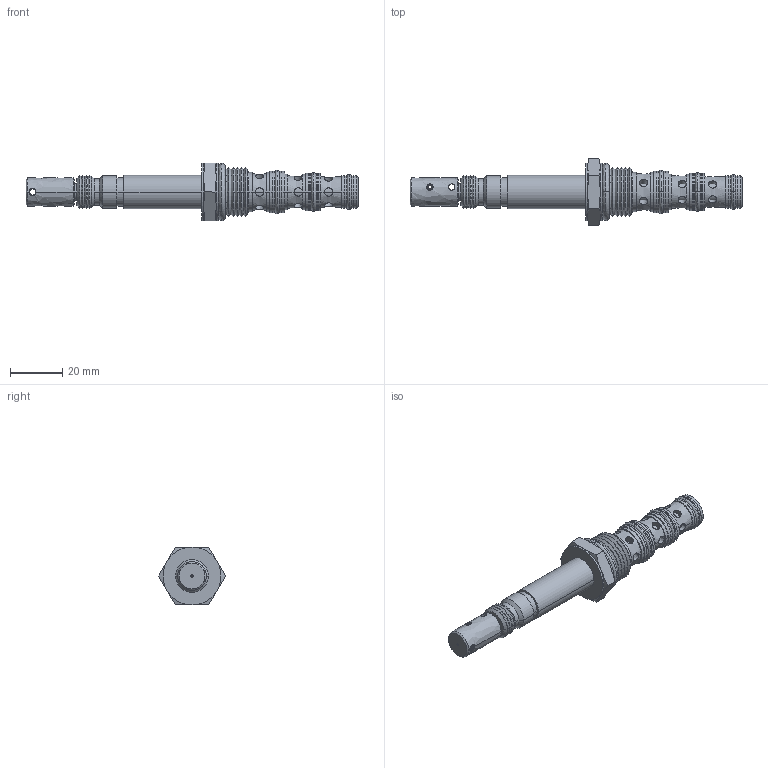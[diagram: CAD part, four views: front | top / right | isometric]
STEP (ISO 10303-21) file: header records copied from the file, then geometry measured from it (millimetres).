
FILE_DESCRIPTION((''),'2;1');
FILE_NAME('U:\Solid model CD\Solid model full\Solenoid\STEP\PQS4C0M-3D Full.stp','2008-06-23T11:40:17',('Dan'),(''),'Autodesk Inventor 9','Autodesk Inventor 9','');
FILE_SCHEMA(('AUTOMOTIVE_DESIGN { 1 0 10303 214 1 1 1 1 }'));
Length unit declared in the file: inch
Products named in the file (13): PQS4C0M-3D Full; PQS4C0M-3D Full1; PQS4C0M-3D Full2; PQS4C0M-3D Full3; PQS4C0M-3D Full4; PQS4C0M-3D Full5; PQS4C0M-3D Full6; PQS4C0M-3D Full7; PQS4C0M-3D Full8; PQS4C0M-3D Full9; PQS4C0M-3D Full10; PQS4C0M-3D Full11; PQS4C0M-3D Full12
Assembly tree (12 placements, depth 2):
  PQS4C0M-3D Full
    PQS4C0M-3D Full1
    PQS4C0M-3D Full2
    PQS4C0M-3D Full3
    PQS4C0M-3D Full4
    PQS4C0M-3D Full5
    PQS4C0M-3D Full6
    PQS4C0M-3D Full7
    PQS4C0M-3D Full8
    PQS4C0M-3D Full9
    PQS4C0M-3D Full10
    PQS4C0M-3D Full11
    PQS4C0M-3D Full12
Bounding box: 127.23 x 25.66 x 22.23 mm (x, y, z)
Volume: 18660 mm3; surface area: 10207.2 mm2
Topology: 12 solids, 12 shells, 384 faces, 848 edges, 514 vertices
Faces by surface type: bspline 340, cylinder 30, cone 8, plane 6
Entity records: 16786 total; most frequent: CARTESIAN_POINT 9305, ORIENTED_EDGE 1696, DIRECTION 1190, EDGE_CURVE 848, VERTEX_POINT 514, AXIS2_PLACEMENT_3D 449, EDGE_LOOP 438, FACE_OUTER_BOUND 384
